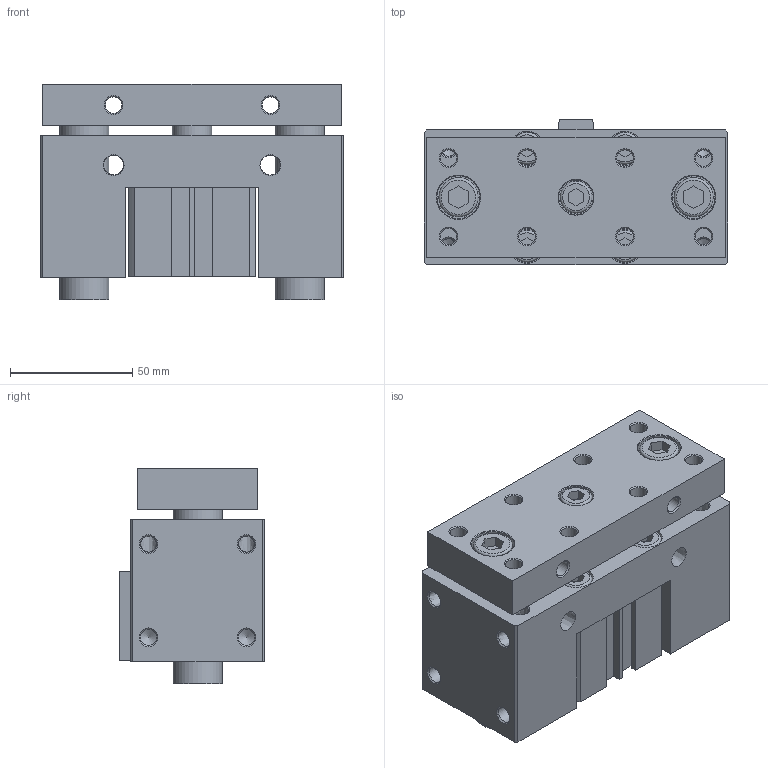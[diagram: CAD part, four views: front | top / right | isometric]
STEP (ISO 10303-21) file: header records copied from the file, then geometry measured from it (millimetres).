
FILE_DESCRIPTION((''),'2;1');
FILE_NAME('I:\3D電子目錄\氣缸\JCB\JCB\JCB40\JCB40x10.stp','2007-08-23T20:07:14',('Administrator'),(''),'Autodesk Inventor 11','Autodesk Inventor 11','');
FILE_SCHEMA(('AUTOMOTIVE_DESIGN { 1 0 10303 214 1 1 1 1 }'));
Length unit declared in the file: millimetre
Products named in the file (1): JCB40
Bounding box: 124 x 59.5 x 88 mm (x, y, z)
Volume: 441176.8 mm3; surface area: 103731.4 mm2
Topology: 3 solids, 3 shells, 303 faces, 731 edges, 473 vertices
Faces by surface type: plane 163, cylinder 52, cone 47, bspline 33, torus 8
Full cylindrical faces by diameter (mm): 2.2 x2, 6.647 x4, 6.8 x4, 10 x8, 13 x5, 14 x5, 16 x3, 17 x1, 17.5 x2, 20 x2, 23 x2, 28 x1, 29 x1, 42 x4, 44.5 x2
Entity records: 8528 total; most frequent: CARTESIAN_POINT 2090, DIRECTION 1302, ORIENTED_EDGE 1114, EDGE_CURVE 557, EDGE_LOOP 522, AXIS2_PLACEMENT_3D 480, VERTEX_POINT 435, VECTOR 342
